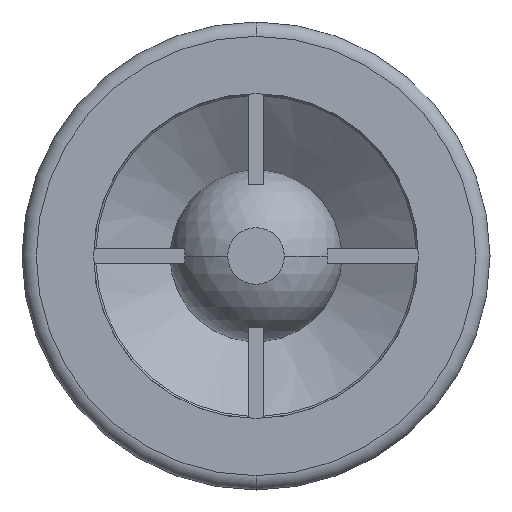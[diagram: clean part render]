
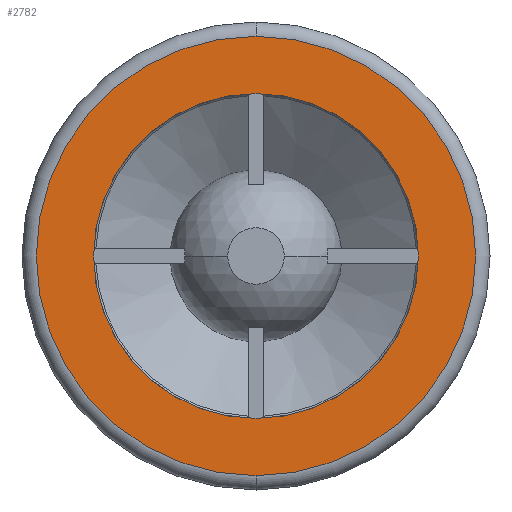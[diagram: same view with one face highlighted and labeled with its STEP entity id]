
A CAD part, front view. The second image highlights one B-rep face of the part: STEP entity #2782.
In plain terms, the highlighted planar face has unit normal (0, -1, 0).
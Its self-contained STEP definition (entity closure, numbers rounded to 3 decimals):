
#83 = EDGE_CURVE ( 'NONE', #283, #280, #504, .T. ) ;
#136 = EDGE_CURVE ( 'NONE', #137, #138, #576, .T. ) ;
#137 = VERTEX_POINT ( 'NONE', #636 ) ;
#138 = VERTEX_POINT ( 'NONE', #635 ) ;
#280 = VERTEX_POINT ( 'NONE', #916 ) ;
#282 = EDGE_CURVE ( 'NONE', #280, #283, #915, .T. ) ;
#283 = VERTEX_POINT ( 'NONE', #910 ) ;
#500 = DIRECTION ( 'NONE',  ( 0., 0., -1. ) ) ;
#501 = DIRECTION ( 'NONE',  ( 0., -1., 0. ) ) ;
#502 = CARTESIAN_POINT ( 'NONE',  ( 0., 0., 0. ) ) ;
#503 = AXIS2_PLACEMENT_3D ( 'NONE', #502, #501, #500 ) ;
#504 = CIRCLE ( 'NONE', #503, 17. ) ;
#576 = CIRCLE ( 'NONE', #580, 23. ) ;
#580 = AXIS2_PLACEMENT_3D ( 'NONE', #639, #638, #637 ) ;
#635 = CARTESIAN_POINT ( 'NONE',  ( 0., 0., 23. ) ) ;
#636 = CARTESIAN_POINT ( 'NONE',  ( 0., 0., -23. ) ) ;
#637 = DIRECTION ( 'NONE',  ( 0., 0., 1. ) ) ;
#638 = DIRECTION ( 'NONE',  ( 0., -1., 0. ) ) ;
#639 = CARTESIAN_POINT ( 'NONE',  ( 0., 0., 0. ) ) ;
#910 = CARTESIAN_POINT ( 'NONE',  ( 0., 0., -17. ) ) ;
#911 = DIRECTION ( 'NONE',  ( 0., 0., -1. ) ) ;
#912 = DIRECTION ( 'NONE',  ( 0., -1., 0. ) ) ;
#913 = CARTESIAN_POINT ( 'NONE',  ( 0., 0., 0. ) ) ;
#914 = AXIS2_PLACEMENT_3D ( 'NONE', #913, #912, #911 ) ;
#915 = CIRCLE ( 'NONE', #914, 17. ) ;
#916 = CARTESIAN_POINT ( 'NONE',  ( 0., 0., 17. ) ) ;
#1458 = DIRECTION ( 'NONE',  ( 0., 0., 1. ) ) ;
#1459 = DIRECTION ( 'NONE',  ( 0., 1., 0. ) ) ;
#1460 = CARTESIAN_POINT ( 'NONE',  ( -17., 0., 0. ) ) ;
#1462 = AXIS2_PLACEMENT_3D ( 'NONE', #1460, #1459, #1458 ) ;
#1463 = PLANE ( 'NONE',  #1462 ) ;
#1464 = FACE_BOUND ( 'NONE', #2620, .T. ) ;
#1465 = FACE_OUTER_BOUND ( 'NONE', #2779, .T. ) ;
#1674 = CIRCLE ( 'NONE', #1733, 23. ) ;
#1730 = DIRECTION ( 'NONE',  ( 0., 0., 1. ) ) ;
#1731 = DIRECTION ( 'NONE',  ( 0., -1., 0. ) ) ;
#1732 = CARTESIAN_POINT ( 'NONE',  ( 0., 0., 0. ) ) ;
#1733 = AXIS2_PLACEMENT_3D ( 'NONE', #1732, #1731, #1730 ) ;
#2618 = ORIENTED_EDGE ( 'NONE', *, *, #282, .F. ) ;
#2619 = ORIENTED_EDGE ( 'NONE', *, *, #83, .F. ) ;
#2620 = EDGE_LOOP ( 'NONE', ( #2619, #2618 ) ) ;
#2779 = EDGE_LOOP ( 'NONE', ( #2780, #2915 ) ) ;
#2780 = ORIENTED_EDGE ( 'NONE', *, *, #2916, .T. ) ;
#2782 = ADVANCED_FACE ( 'NONE', ( #1465, #1464 ), #1463, .F. ) ;
#2915 = ORIENTED_EDGE ( 'NONE', *, *, #136, .T. ) ;
#2916 = EDGE_CURVE ( 'NONE', #138, #137, #1674, .T. ) ;
